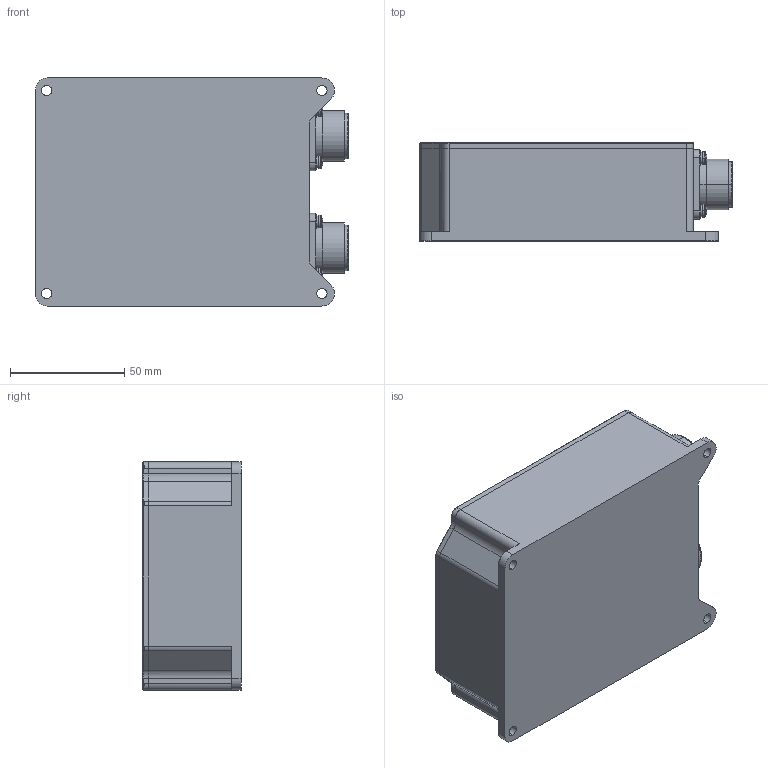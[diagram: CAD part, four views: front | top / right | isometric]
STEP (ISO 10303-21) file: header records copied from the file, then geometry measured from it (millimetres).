
FILE_DESCRIPTION (( 'STEP AP203' ), '1' );
FILE_NAME ('CASE 66.STEP', '2016-08-27T17:25:35', ( 'gregory' ), ( '' ), 'SwSTEP 2.0', 'SolidWorks 2011', '' );
FILE_SCHEMA (( 'CONFIG_CONTROL_DESIGN' ));
Length unit declared in the file: millimetre
Products named in the file (10): CASE 66; CONN MS3102 14 SHELL_FEM - MS3102E14S-6S - 6 PIN; GIL-10700-B03; GIL-10700-PR01; GIL-10700-PR04; CONN MS3102 14 SHELL_MALE - MS3102E14S-6P - 6 PIN; flat washer type a selected narrow_ai(Selected Narrow FW 0.125); flat head screw_ai(CR-FHMS 0.112-40x0.3125x0.3125-N); pan cross head_ai(CR-PHMS 0.112-40x0.3125x0.3125-N); lock washer spring regular_ai(Regular LW 0.112)
Assembly tree (38 placements, depth 3):
  CASE 66
    flat head screw_ai(CR-FHMS 0.112-40x0.3125x0.3125-N)  x9
    lock washer spring regular_ai(Regular LW 0.112)  x8
    flat washer type a selected narrow_ai(Selected Narrow FW 0.125)  x8
    pan cross head_ai(CR-PHMS 0.112-40x0.3125x0.3125-N)  x8
    GIL-10700-PR04
    GIL-10700-B03
      GIL-10700-PR01
    CONN MS3102 14 SHELL_FEM - MS3102E14S-6S - 6 PIN
    CONN MS3102 14 SHELL_MALE - MS3102E14S-6P - 6 PIN
Bounding box: 137.07 x 43 x 100 mm (x, y, z)
Volume: 519592.6 mm3; surface area: 82453.8 mm2
Topology: 37 solids, 43 shells, 1175 faces, 2674 edges, 1669 vertices
Faces by surface type: plane 629, cylinder 368, bspline 100, cone 78
Entity records: 31364 total; most frequent: CARTESIAN_POINT 11874, ORIENTED_EDGE 3664, DIRECTION 3488, EDGE_CURVE 1832, AXIS2_PLACEMENT_3D 1197, VERTEX_POINT 1183, VECTOR 1094, LINE 1094
